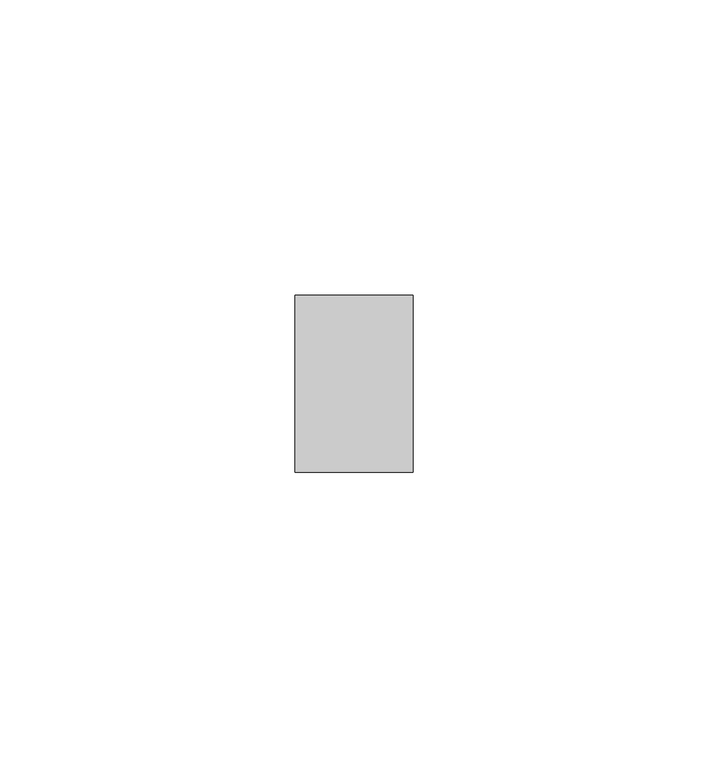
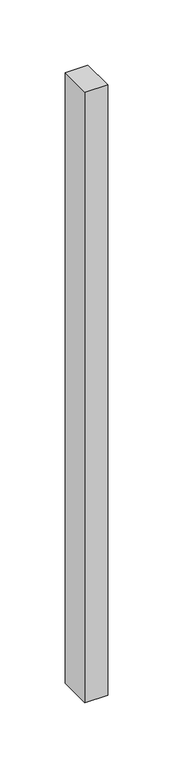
"""IFC4 building model written with IfcOpenShell, lengths in millimetres: member geometry, Прямоугольный импост : Квадрат 10 мм - Зазор между навесными плитами."""

from ifc_helpers import new_model, si_unit, frame, origin, place, context, project, spatial, polyline, outline, extrude, source, transform, mapped, element, save


def member_c114ad4a(model_context):
    return source(origin(), model_context, "Body", "SweptSolid", [
        extrude(outline(polyline([(0.0, 15.0), (0.0, -15.0), (-20.0, -15.0), (-20.0, 15.0), (0.0, 15.0)])), frame((0.0, 0.0, -570.0), z_axis=(0.0, 0.0, 1.0), x_axis=(1.0, 0.0, 0.0)), (0.0, 0.0, 1.0), 570.0),
    ])


if __name__ == "__main__":
    model = new_model("IFC4")
    model_context = context("Model", 3, world=origin())
    ifc_project = project(units=[si_unit("LENGTHUNIT", "METRE", prefix="MILLI")], contexts=[model_context])
    site = spatial("IfcSite", under=ifc_project)
    building = spatial("IfcBuilding", under=site)
    placement = place(None, origin())
    member_shape = member_c114ad4a(model_context)
    element("IfcMember", 1, ObjectType="Прямоугольный импост : Квадрат 10 мм - Зазор между навесными плитами", at=placement, inside=building, context=model_context, shape_type="MappedRepresentation", body=[
        mapped(member_shape, transform((0.0, 0.0, 0.0), x_axis=(1.0, 0.0, 0.0), y_axis=(0.0, 1.0, 0.0), z_axis=(0.0, 0.0, 1.0))),
    ])
    save(model, "model.ifc")
